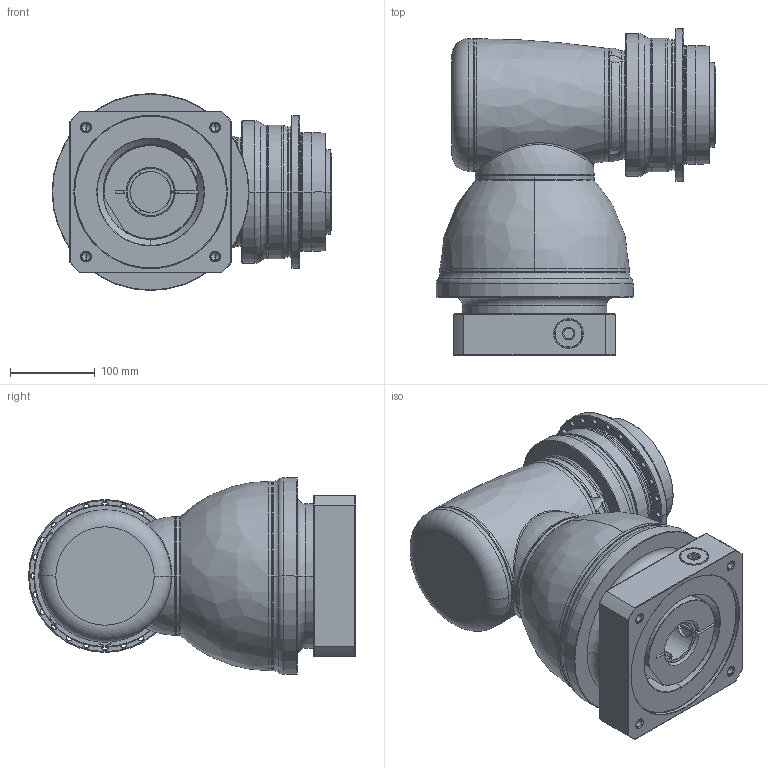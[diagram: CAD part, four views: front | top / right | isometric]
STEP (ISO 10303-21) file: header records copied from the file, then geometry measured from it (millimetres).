
FILE_DESCRIPTION((''),'2;1');
FILE_NAME('APK140_2ST_SBG_48-P0409B10201_ASM','2018-10-30T',('d01226'),(''),'PRO/ENGINEER BY PARAMETRIC TECHNOLOGY CORPORATION, 2015240','PRO/ENGINEER BY PARAMETRIC TECHNOLOGY CORPORATION, 2015240','');
FILE_SCHEMA(('CONFIG_CONTROL_DESIGN'));
Length unit declared in the file: millimetre
Products named in the file (13): P0278501003; P0359501103; P1211500001; P1802510011; P1018600002; P1365600001; P1007601001; P1318610401; P0503B00016; P0912654001; P0409B10201; 21711426021; APK140_2ST_SBG_48-P0409B10201_ASM
Assembly tree (12 placements, depth 2):
  APK140_2ST_SBG_48-P0409B10201_ASM
    P0278501003
    P0359501103
    P1211500001
    P1802510011
    P1018600002
    P1365600001
    P1007601001
    P1318610401
    P0503B00016
    P0912654001
    P0409B10201
    21711426021
Bounding box: 329.5 x 385 x 232 mm (x, y, z)
Volume: 11832596.1 mm3; surface area: 908274.1 mm2
Topology: 13 solids, 38 shells, 856 faces, 1968 edges, 1197 vertices
Faces by surface type: cylinder 356, cone 228, plane 144, torus 102, bspline 24, sphere 2
Entity records: 30992 total; most frequent: CARTESIAN_POINT 10944, DIRECTION 4591, ORIENTED_EDGE 3746, AXIS2_PLACEMENT_3D 1968, EDGE_CURVE 1924, VERTEX_POINT 1197, CIRCLE 1101, EDGE_LOOP 1023
